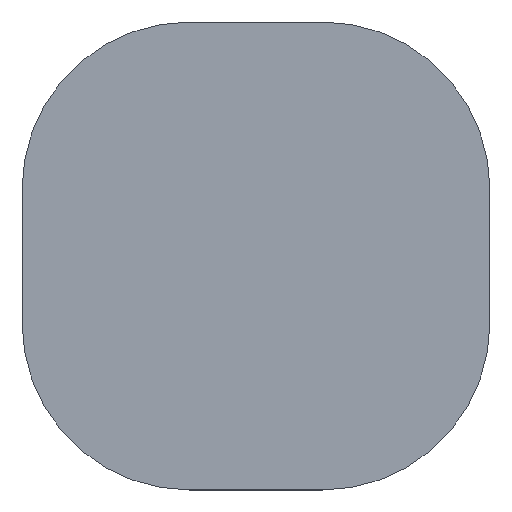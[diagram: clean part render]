
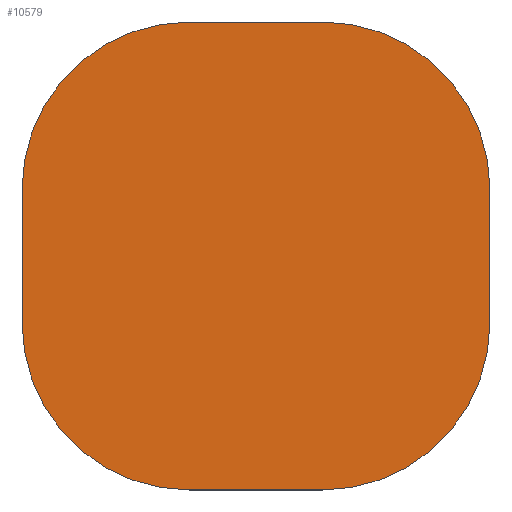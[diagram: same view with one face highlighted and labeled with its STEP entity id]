
A CAD part, top view. The second image highlights one B-rep face of the part: STEP entity #10579.
In plain terms, the highlighted planar face has unit normal (0, 0, 1).
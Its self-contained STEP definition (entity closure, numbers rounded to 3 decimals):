
#10504=CARTESIAN_POINT('',(0.,0.,20.));
#10505=DIRECTION('',(1.,0.,0.));
#10506=DIRECTION('',(0.,0.,1.));
#10507=AXIS2_PLACEMENT_3D('',#10504,#10506,#10505);
#10508=PLANE('',#10507);
#10509=CARTESIAN_POINT('',(-100.,-350.,20.));
#10510=VERTEX_POINT('',#10509);
#10511=CARTESIAN_POINT('',(100.,-350.,20.));
#10512=VERTEX_POINT('',#10511);
#10513=CARTESIAN_POINT('',(-100.,-350.,20.));
#10514=DIRECTION('',(1.,0.,0.));
#10515=VECTOR('',#10514,200.);
#10516=LINE('',#10513,#10515);
#10517=EDGE_CURVE('',#10510,#10512,#10516,.T.);
#10518=ORIENTED_EDGE('E9',*,*,#10517,.T.);
#10519=CARTESIAN_POINT('',(350.,-100.,20.));
#10520=VERTEX_POINT('',#10519);
#10521=CARTESIAN_POINT('',(100.,-100.,20.));
#10522=DIRECTION('',(0.,-1.,0.));
#10523=DIRECTION('',(0.,-0.,1.));
#10524=AXIS2_PLACEMENT_3D('',#10521,#10523,#10522);
#10525=CIRCLE('',#10524,250.);
#10526=EDGE_CURVE('',#10512,#10520,#10525,.T.);
#10527=ORIENTED_EDGE('E10',*,*,#10526,.T.);
#10528=CARTESIAN_POINT('',(350.,100.,20.));
#10529=VERTEX_POINT('',#10528);
#10530=CARTESIAN_POINT('',(350.,-100.,20.));
#10531=DIRECTION('',(0.,1.,0.));
#10532=VECTOR('',#10531,200.);
#10533=LINE('',#10530,#10532);
#10534=EDGE_CURVE('',#10520,#10529,#10533,.T.);
#10535=ORIENTED_EDGE('E11',*,*,#10534,.T.);
#10536=CARTESIAN_POINT('',(100.,350.,20.));
#10537=VERTEX_POINT('',#10536);
#10538=CARTESIAN_POINT('',(100.,100.,20.));
#10539=DIRECTION('',(1.,0.,0.));
#10540=DIRECTION('',(0.,0.,1.));
#10541=AXIS2_PLACEMENT_3D('',#10538,#10540,#10539);
#10542=CIRCLE('',#10541,250.);
#10543=EDGE_CURVE('',#10529,#10537,#10542,.T.);
#10544=ORIENTED_EDGE('E12',*,*,#10543,.T.);
#10545=CARTESIAN_POINT('',(-100.,350.,20.));
#10546=VERTEX_POINT('',#10545);
#10547=CARTESIAN_POINT('',(100.,350.,20.));
#10548=DIRECTION('',(-1.,0.,0.));
#10549=VECTOR('',#10548,200.);
#10550=LINE('',#10547,#10549);
#10551=EDGE_CURVE('',#10537,#10546,#10550,.T.);
#10552=ORIENTED_EDGE('E13',*,*,#10551,.T.);
#10553=CARTESIAN_POINT('',(-350.,100.,20.));
#10554=VERTEX_POINT('',#10553);
#10555=CARTESIAN_POINT('',(-100.,100.,20.));
#10556=DIRECTION('',(0.,1.,0.));
#10557=DIRECTION('',(0.,0.,1.));
#10558=AXIS2_PLACEMENT_3D('',#10555,#10557,#10556);
#10559=CIRCLE('',#10558,250.);
#10560=EDGE_CURVE('',#10546,#10554,#10559,.T.);
#10561=ORIENTED_EDGE('E14',*,*,#10560,.T.);
#10562=CARTESIAN_POINT('',(-350.,-100.,20.));
#10563=VERTEX_POINT('',#10562);
#10564=CARTESIAN_POINT('',(-350.,100.,20.));
#10565=DIRECTION('',(0.,-1.,0.));
#10566=VECTOR('',#10565,200.);
#10567=LINE('',#10564,#10566);
#10568=EDGE_CURVE('',#10554,#10563,#10567,.T.);
#10569=ORIENTED_EDGE('E15',*,*,#10568,.T.);
#10570=CARTESIAN_POINT('',(-100.,-100.,20.));
#10571=DIRECTION('',(-1.,0.,0.));
#10572=DIRECTION('',(-0.,0.,1.));
#10573=AXIS2_PLACEMENT_3D('',#10570,#10572,#10571);
#10574=CIRCLE('',#10573,250.);
#10575=EDGE_CURVE('',#10563,#10510,#10574,.T.);
#10576=ORIENTED_EDGE('E16',*,*,#10575,.T.);
#10577=EDGE_LOOP('',(#10518,#10527,#10535,#10544,#10552,#10561,#10569,#10576));
#10578=FACE_OUTER_BOUND('',#10577,.T.);
#10579=ADVANCED_FACE('F2',(#10578),#10508,.T.);
